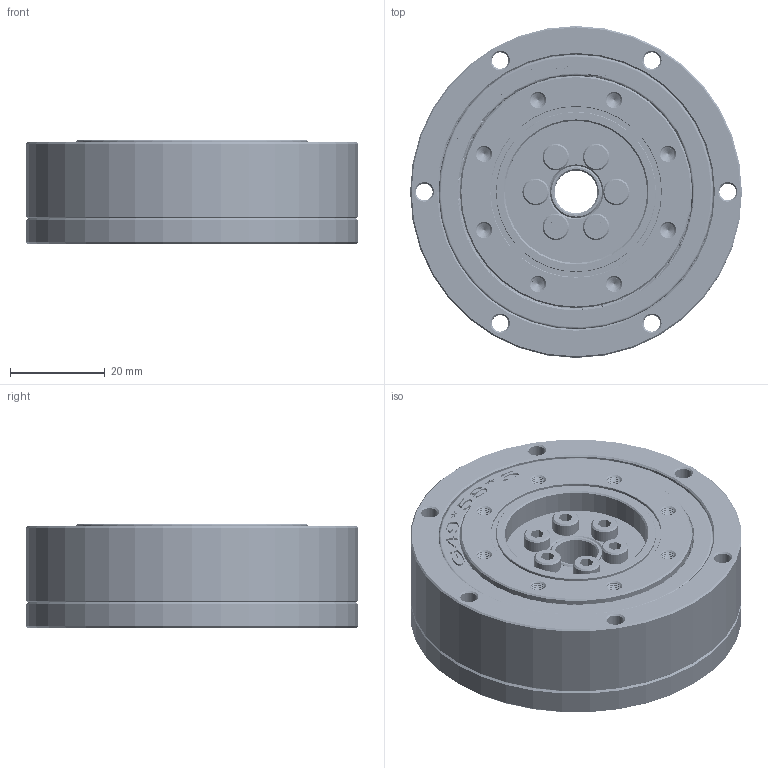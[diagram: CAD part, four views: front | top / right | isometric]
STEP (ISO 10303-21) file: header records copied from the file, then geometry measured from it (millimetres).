
FILE_DESCRIPTION(/* description */ (''),/* implementation_level */ '2;1');
FILE_NAME(/* name */ 'XBZ14成品图.prt.stp',/* time_stamp */ '2022-07-23T08:56:11+08:00',/* author */ (''),/* organization */ (''),/* preprocessor_version */ 'ST-DEVELOPER v16',/* originating_system */ 'SIEMENS PLM Software NX 10.0',/* authorisation */ '');
FILE_SCHEMA (('CONFIG_CONTROL_DESIGN'));
Length unit declared in the file: millimetre
Products named in the file (13): 14柔性轴承保持架（日标超薄）; XBD14-3-1凸轮; G49585; M3X 8; M2X8; M2X5; XBZ14-4-1-1销子; XBZ14-1钢轮; XBZ14-2-1柔轮压板; XBZ14-2柔轮; XBZ14-4-1内芯; 14柔性轴承（日标超薄）_MODE
L; XBZ14成品图
Assembly tree (19 placements, depth 3):
  XBZ14成品图
    XBZ14-4-1内芯
    XBZ14-2柔轮
    XBZ14-2-1柔轮压板
    XBZ14-1钢轮
    XBZ14-4-1-1销子
    M2X5
    M2X8  x3
    M3X 8  x6
    G49585
    14柔性轴承（日标超薄）_MODE
L
      14柔性轴承保持架（日标超薄）
    XBD14-3-1凸轮
Bounding box: 70 x 70 x 22 mm (x, y, z)
Volume: 63276.8 mm3; surface area: 45330.1 mm2
Topology: 44 solids, 44 shells, 860 faces, 2175 edges, 1401 vertices
Faces by surface type: plane 318, cylinder 206, cone 170, bspline 86, extrusion 37, sphere 23, torus 20
Full cylindrical faces by diameter (mm): 2.5 x4, 3.5 x24, 3.8 x3, 4 x1, 4.5 x4, 5.6 x6, 9 x1, 11 x4, 23 x2, 24 x1, 25.07 x1, 26 x1, 26.67 x2, 27 x1, 28.4 x1, 29.5 x1, 30 x1, 31.5 x1, 32.396 x2, 33.8 x1, 33.896 x2, 34.216 x1, 34.7 x1, 36 x2, 36.2 x1, 45.4 x1, 48 x1, 49 x2, 49.5 x1, 49.8 x1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
Entity records: 107134 total; most frequent: CARTESIAN_POINT 90659, ORIENTED_EDGE 2852, DIRECTION 2811, EDGE_CURVE 1426, AXIS2_PLACEMENT_3D 1209, VERTEX_POINT 1078, EDGE_LOOP 1046, ADVANCED_FACE 704
